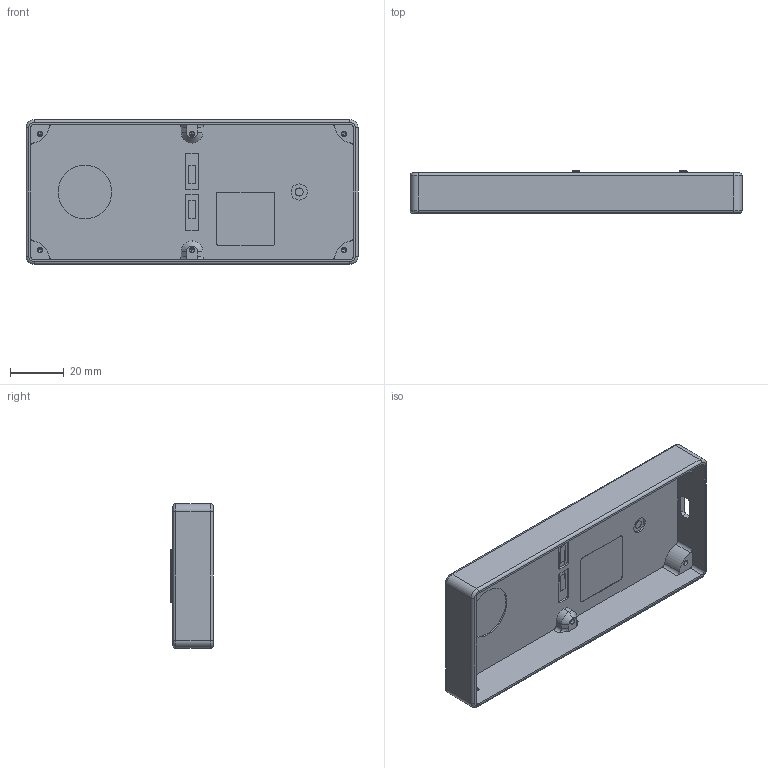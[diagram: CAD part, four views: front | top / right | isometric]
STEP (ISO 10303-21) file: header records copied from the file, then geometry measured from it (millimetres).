
FILE_DESCRIPTION (( 'STEP AP203' ), '1' );
FILE_NAME ('new haptic top plate rev 6.STEP', '2014-09-13T00:13:48', ( 'ikim@hotmail.com' ), ( '' ), 'SwSTEP 2.0', 'SolidWorks 2003240', '' );
FILE_SCHEMA (( 'CONFIG_CONTROL_DESIGN' ));
Length unit declared in the file: millimetre
Products named in the file (1): new haptic top plate rev 6
Bounding box: 124 x 15.8 x 54 mm (x, y, z)
Volume: 16117.1 mm3; surface area: 23399.4 mm2
Topology: 1 solids, 1 shells, 224 faces, 557 edges, 345 vertices
Faces by surface type: cylinder 105, plane 82, cone 19, torus 14, sphere 4
Entity records: 6685 total; most frequent: DIRECTION 1226, CARTESIAN_POINT 1155, ORIENTED_EDGE 1082, EDGE_CURVE 541, AXIS2_PLACEMENT_3D 464, VERTEX_POINT 345, VECTOR 298, LINE 298
